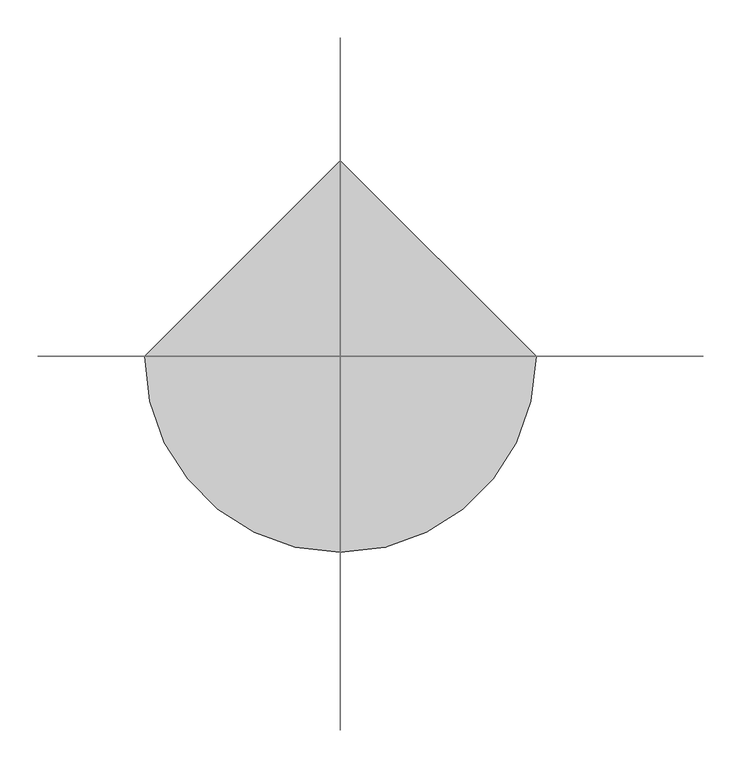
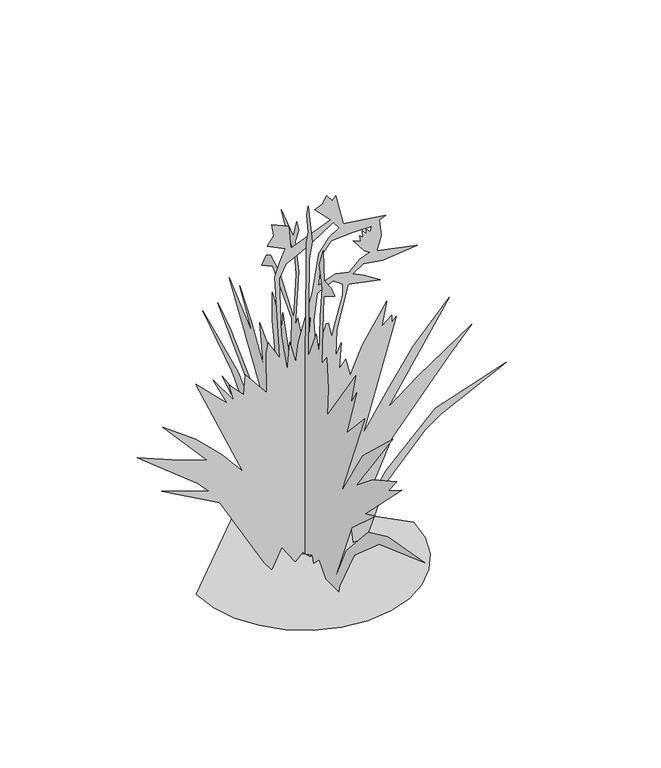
"""IFC4 building model written with IfcOpenShell, lengths in millimetres: geographic element geometry, RPC Vegetação - Tropical : Ave-do-paraíso - 0,9 metros."""

from ifc_helpers import new_model, si_unit, origin, place, context, project, spatial, triangles, source, transform, mapped, element, save


def geographic_element_d6f29d71(model_context):
    return source(origin(), model_context, "Body", "Tessellation", [
        triangles([(-259.9785534, 0.0, 0.0268233), (-253.1010481, -59.6150476, 0.0268233), (-233.511528, -114.3618422, 0.0268233), (-202.7802461, -162.6718839, 0.0268233), (-162.4752208, -202.9769092, 0.0268233), (-114.1651699, -233.7081911, 0.0268233), (-59.4183753, -253.2977112, 0.0268233), (0.1966824, -260.1752166, 0.0268233), (59.8117198, -253.2977112, 0.0268233), (114.5585144, -233.7081911, 0.0268233), (162.8685471, -202.9769092, 0.0268233), (203.1735723, -162.6718839, 0.0268233), (233.9048542, -114.3618422, 0.0268233), (253.4943744, -59.6150476, 0.0268233), (260.3718797, 2.27e-05, 0.0268233), (0.196637, 260.1752166, 0.0268233), (0.1966659, -139.1443593, 0.0), (0.1966684, -88.0078185, 0.0536398), (0.1966402, -58.990549, 32.7495272), (0.1966405, -35.8097782, 9.6918832), (0.1966413, -29.8602731, 25.7230211), (0.1966732, 21.7865176, 0.034815), (0.1966441, 34.5367773, 22.1214173), (0.1966445, 49.6382901, 13.7622607), (0.1966474, 70.672058, 79.5130609), (0.1966762, 90.1703228, 0.0208418), (0.1966478, 107.2985832, 40.1992814), (0.1966473, 111.058837, 15.7445877), (0.196653, 161.8541286, 132.442361), (0.1966563, 198.1324011, 187.8076498), (0.1966626, 309.9377678, 232.2916896), (0.1966647, 342.7502635, 253.8127052), (0.1966625, 296.7677323, 246.5757015), (0.1966595, 242.8469501, 228.3061771), (0.1966641, 304.1927515, 290.3902328), (0.1966718, 423.5253476, 370.722793), (0.1966633, 276.0552248, 304.4802521), (0.1966555, 171.8183823, 201.1024052), (0.1966614, 236.3839362, 302.5627456), (0.1966708, 361.8803095, 428.1128583), (0.1966673, 307.6702463, 392.9753228), (0.1966599, 206.8259112, 295.6077377), (0.1966548, 145.8508721, 217.3604244), (0.1966596, 184.2226397, 318.2102643), (0.1966714, 315.1177568, 519.5154187), (0.1966647, 219.4651833, 438.7428417), (0.1966696, 270.4802198, 525.8929364), (0.1966657, 223.1594346, 465.467882), (0.1966611, 172.7018858, 385.6028077), (0.1966646, 187.5809013, 483.3803787), (0.1966593, 117.4355917, 408.9828123), (0.1966634, 135.2886081, 521.2629138), (0.1966656, 136.56611, 591.7854624), (0.1966618, 93.4560779, 527.7529246), (0.1966628, 91.9280734, 566.2779714), (0.1966581, 58.6350474, 456.1503548), (0.1966615, 55.321546, 574.7429707), (0.1966675, 133.8631046, 658.6055117), (0.1966687, 179.0783861, 634.2979837), (0.196669, 161.3428771, 669.9680449), (0.1966686, 144.7243693, 680.6605608), (0.1966663, 106.4768402, 661.3255491), (0.1966613, 47.2902866, 581.1579861), (0.1966643, 36.290279, 697.9080545), (0.1966659, 43.1720333, 741.84062), (0.1966691, 82.4325683, 791.7756535), (0.1966708, 98.3050824, 823.4781515), (0.1966675, 48.3622869, 787.2931509), (0.1966682, 34.5367773, 831.9806849), (0.1966673, 26.0340214, 814.9756908), (0.1966669, 40.9132821, 778.8406145), (0.1966642, 26.4267708, 709.8755653), (0.1966606, 40.9132821, 566.2779714), (0.1966608, 30.2852744, 589.6604831), (0.1966584, 9.0291074, 542.8979304), (0.1966586, -4.1769284, 568.0779705), (0.1966655, -6.1822801, 802.8856585), (0.1966661, -13.3562353, 834.1057005), (0.1966676, -6.8368056, 873.7782063), (0.196668, -14.3526611, 900.0007336), (0.196665, -29.8230252, 820.1106972), (0.196664, -16.8713891, 768.4456095), (0.1966567, -14.3526611, 519.5154187), (0.1966575, -46.2367853, 596.0379644), (0.1966556, -58.990549, 551.4004274), (0.1966585, -62.7763008, 651.6330448), (0.1966603, -72.4635593, 726.8855736), (0.1966624, -58.990549, 778.8406145), (0.1966627, -67.4930551, 802.2231262), (0.1966631, -75.9955612, 825.6031672), (0.1966606, -80.2468188, 751.2080715), (0.1966593, -109.1830885, 749.823127), (0.1966583, -124.486097, 739.7156044), (0.196659, -98.753329, 723.7105494), (0.1966595, -78.4530602, 710.6880884), (0.1966547, -69.6185567, 536.5204491), (0.1966546, -90.9348201, 563.3229555), (0.196652, -97.2515766, 487.63041), (0.1966502, -93.0003281, 419.610325), (0.19665, -209.9091714, 589.6604831), (0.1966485, -190.778653, 508.8879061), (0.1966486, -214.1604199, 549.272941), (0.1966467, -173.7738952, 423.862827), (0.1966458, -248.1704443, 504.635404), (0.1966429, -150.3921193, 260.1902048), (0.1966432, -240.5591901, 406.5378307), (0.1966412, -363.5102972, 522.7079201), (0.1966417, -212.0349137, 313.3302569), (0.1966403, -280.980233, 370.1877966), (0.1966375, -381.4852901, 425.0578485), (0.1966378, -345.9477791, 381.3503057), (0.1966363, -400.5528399, 415.4653381), (0.1966386, -250.1001956, 265.1027138), (0.1966373, -290.6827294, 283.5727346), (0.196639, -194.4896547, 195.6851668), (0.1966369, -116.3820949, 7.242106), (0.1966379, -170.474133, 123.4753484), (0.1966368, -262.6252124, 226.0591849), (0.1966344, -342.5077638, 263.0927166), (0.1966283, -496.8678912, 289.9502342), (0.1966348, -307.2127524, 222.7774266), (0.1966366, -204.0569123, 131.4561022), (0.1966359, -144.0151194, 17.8701892), (115.6795125, 2.27e-05, 0.0398743), (108.7980103, 2.05e-05, 73.2373084), (77.051238, 2.5e-05, 20.6836417), (54.9359682, 2.45e-05, 45.5032863), (12.5857564, 2.85e-05, 0.012038), (-4.8926582, 2.88e-05, 17.863214), (-23.5282741, 3.04e-05, 0.0036837), (-55.5963748, 2.92e-05, 47.6287879), (-79.7358943, 3.23e-05, 0.0178802), (-97.230902, 3.25e-05, 23.7636431), (-204.3227573, 2.59e-05, 213.2274282), (-342.5535822, 2.73e-05, 289.9502342), (-229.8965233, 2.47e-05, 251.6877078), (-257.2860397, 2.41e-05, 280.7902192), (-402.0711339, 2.36e-05, 396.2303204), (-319.3685875, 2.2e-05, 362.2427874), (-234.1477718, 2.02e-05, 330.3352509), (-340.4286029, 1.76e-05, 451.49537), (-261.8410488, 1.76e-05, 393.915309), (-200.4179993, 1.85e-05, 334.3652739), (-149.1232015, 1.99e-05, 272.945222), (-261.7810415, 9.4e-06, 532.267947), (-186.2094915, 1.04e-05, 458.6753823), (-219.2685202, 7.7e-06, 528.0179157), (-170.8014749, 9.7e-06, 459.8203706), (-181.0072291, 7.6e-06, 502.5103884), (-146.99745, 8.3e-06, 466.3753847), (-142.7461925, 5.2e-06, 515.2654238), (-91.7314012, 6.7e-06, 451.49537), (-92.4199039, 9e-07, 550.6254384), (-87.4803979, -9e-07, 576.9079548), (-59.8471282, 8e-07, 528.0179157), (-63.2118802, -1.8e-06, 574.5229623), (-72.0126375, -1.12e-05, 737.4980799), (-60.5481256, -1.37e-05, 770.9756149), (-46.9568676, -1.6e-05, 800.6756189), (-89.6059041, -1.54e-05, 821.3531359), (-75.1433875, -1.73e-05, 842.9082155), (-78.9778919, -1.89e-05, 872.3681906), (-39.0651073, -1.96e-05, 855.3607258), (-34.3401073, -1.64e-05, 797.9706242), (61.3127228, -2.29e-05, 836.2331869), (23.0517634, -2.35e-05, 874.4932062), (41.945205, -2.48e-05, 882.3832043), (52.8104666, -2.63e-05, 900.0007336), (65.3487229, -2.58e-05, 882.7607248), (73.7792312, -2.68e-05, 892.5007553), (92.3999923, -2.3e-05, 815.1081682), (193.2943244, -2.66e-05, 801.0981222), (178.2215525, -2.56e-05, 795.8456085), (183.0043093, -2.34e-05, 754.7956432), (171.8447978, -2.08e-05, 719.3230991), (269.6243855, -2.38e-05, 698.0680738), (186.5975674, -1.96e-05, 689.9205334), (140.0270361, -1.8e-05, 697.005566), (114.4530157, -1.6e-05, 681.0630798), (140.7995362, -1.64e-05, 668.4080383), (180.347313, -1.66e-05, 642.8005171), (103.8560063, -1.42e-05, 658.5480297), (76.0324821, -6.6e-06, 551.6779541), (74.066482, -2.7e-06, 487.63041), (86.7337411, -4.9e-06, 516.1354288), (82.5687428, -9e-07, 451.49537), (97.4482488, -2.7e-06, 470.6253797), (108.0762611, -5e-07, 425.9878427), (136.9525326, -5.7e-06, 491.9003892), (196.070572, -1.37e-05, 582.6854728), (184.5985615, -9.7e-06, 523.7679208), (207.9803284, -1.18e-05, 542.8979304), (207.9803284, -1.08e-05, 525.8929364), (218.6083315, -1.19e-05, 536.5204491), (139.960534, 7.5e-06, 268.6927199), (194.4868206, 1e-07, 353.2602688), (258.4668725, -8.2e-06, 445.6903464), (346.1444604, -1.77e-05, 540.770444), (199.477577, 2.2e-06, 313.3302569), (269.7743763, -4e-06, 366.8578036), (399.2870015, -1.49e-05, 453.6203493), (350.2569637, -9.5e-06, 399.3953161), (208.3925852, 6.7e-06, 231.6836781), (129.8057759, 2.05e-05, 58.6020462), (194.5665759, 1.18e-05, 155.83987), (312.2694205, -1e-07, 270.6852219), (482.1845578, -1.1e-05, 328.2102716), (325.1544262, 4e-07, 251.2227107), (287.4294033, 3.7e-06, 224.188932), (196.2833134, 1.36e-05, 125.0796018), (146.3372887, 2.1e-05, 0.0499438), (112.7742665, -2.21e-05, 784.8906086), (62.8654714, -1.97e-05, 782.2206408), (41.8502071, -1.72e-05, 755.4756163), (31.5541945, -1.23e-05, 681.0630798), (73.7169802, -1.5e-05, 695.200589), (105.9507549, -1.6e-05, 687.4380541), (130.9127759, -1.85e-05, 711.3255495), (154.84004, -2.01e-05, 721.4481148), (141.8600365, -2.01e-05, 729.6030676), (115.9157626, -2.1e-05, 764.0656443), (134.0235327, -2.13e-05, 756.2055862), (131.7932818, -2.21e-05, 770.9056337), (138.67403, -2.2e-05, 764.8606539), (137.8350369, -2.29e-05, 780.9656301), (146.3372887, -2.27e-05, 770.3381538), (146.6580449, -2.34e-05, 782.6406006), (156.1762957, -2.33e-05, 773.1156006), (159.9027942, -2.42e-05, 785.1081099), (36.1186983, -2e-05, 806.1031219), (-10.1556619, -1.63e-05, 778.3231316), (-45.6728662, -1.38e-05, 761.4506149), (-61.6516284, -1.12e-05, 730.2305729), (-56.5396221, -2.8e-06, 585.4429716), (-42.8423613, 2.2e-06, 491.8829121), (-36.4656089, -2.1e-06, 559.9029608), (-21.5861733, 5e-07, 504.635404), (-15.4455666, -2.5e-06, 551.0479417), (18.0034103, -1.09e-05, 666.3830166), (33.2811967, -1.71e-05, 760.0431427), (56.9582194, -2.01e-05, 792.7081547), (82.5687428, -2.22e-05, 808.5981731), (67.6897273, -2.27e-05, 827.7306536), (29.9296934, -1.11e-05, 661.0805059), (21.6548124, -6.8e-06, 595.5179744), (25.4739402, -2.5e-06, 519.7704177), (30.5661939, -2.7e-06, 520.4079151), (50.9349633, -7e-06, 577.057982), (55.3907188, -7.1e-06, 576.4229553), (64.3019753, -5.3e-06, 539.5029342), (68.7577263, -6.7e-06, 559.2354506), (90.3994967, -1.22e-05, 635.618034), (90.3994967, -1.38e-05, 662.35303), (67.4844755, -1.38e-05, 679.5380276), (7.0147767, -5.6e-06, 585.970483), (10.8339045, -4.5e-06, 564.327945), (13.3800063, -6e-06, 588.5154585), (15.2895827, -7.8e-06, 617.1605124)], [[15, 16, 1], [14, 15, 1], [14, 1, 2], [13, 14, 2], [13, 2, 3], [13, 3, 4], [12, 13, 4], [11, 12, 4], [11, 4, 5], [11, 5, 6], [11, 6, 7], [11, 7, 8], [11, 8, 9], [11, 9, 10], [46, 47, 48], [119, 120, 121], [35, 36, 37], [106, 107, 108], [39, 40, 41], [39, 41, 42], [101, 102, 103], [111, 112, 113], [105, 106, 108], [44, 45, 46], [113, 114, 115], [54, 55, 56], [103, 104, 105], [99, 100, 101], [109, 110, 111], [89, 90, 91], [118, 119, 121], [31, 32, 33], [46, 48, 49], [44, 46, 49], [79, 80, 81], [78, 79, 81], [66, 67, 68], [27, 28, 29], [52, 53, 54], [88, 89, 91], [87, 88, 91], [49, 50, 51], [58, 59, 60], [99, 101, 103], [25, 26, 27], [83, 84, 85], [109, 111, 113], [108, 109, 113], [96, 97, 98], [68, 69, 70], [68, 70, 71], [38, 39, 42], [38, 42, 43], [65, 66, 68], [65, 68, 71], [65, 71, 72], [64, 65, 72], [64, 72, 73], [63, 64, 73], [118, 121, 122], [117, 118, 122], [117, 122, 123], [116, 117, 123], [73, 74, 75], [116, 123, 17], [116, 17, 18], [58, 60, 61], [58, 61, 62], [57, 58, 62], [57, 62, 63], [77, 78, 81], [77, 81, 82], [76, 77, 82], [76, 82, 83], [75, 76, 83], [92, 93, 94], [19, 20, 21], [30, 31, 33], [30, 33, 34], [91, 92, 94], [87, 91, 94], [87, 94, 95], [86, 87, 95], [86, 95, 96], [85, 86, 96], [34, 35, 37], [34, 37, 38], [30, 34, 38], [25, 27, 29], [57, 63, 73], [56, 57, 73], [56, 73, 75], [56, 75, 83], [23, 24, 25], [99, 103, 105], [29, 30, 38], [105, 108, 113], [105, 113, 115], [51, 52, 54], [51, 54, 56], [83, 85, 96], [21, 22, 23], [83, 96, 98], [83, 98, 99], [56, 83, 99], [29, 38, 43], [25, 29, 43], [115, 116, 18], [115, 18, 19], [105, 115, 19], [21, 23, 25], [44, 49, 51], [43, 44, 51], [56, 99, 105], [51, 56, 105], [43, 51, 105], [43, 105, 19], [25, 43, 19], [21, 25, 19], [248, 124, 125], [241, 229, 212], [206, 207, 208], [197, 198, 199], [146, 147, 148], [134, 135, 136], [196, 197, 199], [241, 212, 213], [255, 237, 238], [140, 141, 142], [200, 201, 202], [137, 138, 139], [255, 238, 239], [258, 255, 239], [175, 176, 177], [184, 185, 186], [235, 236, 237], [180, 181, 182], [189, 190, 191], [144, 145, 146], [140, 142, 143], [247, 248, 125], [171, 172, 173], [200, 202, 203], [199, 200, 203], [193, 194, 195], [237, 255, 256], [220, 221, 222], [148, 149, 150], [137, 139, 140], [224, 225, 226], [229, 241, 242], [195, 196, 199], [222, 223, 224], [153, 154, 155], [179, 180, 182], [150, 151, 152], [226, 227, 228], [191, 192, 193], [186, 187, 188], [169, 170, 171], [175, 177, 178], [152, 153, 155], [195, 199, 203], [161, 162, 163], [240, 241, 213], [240, 213, 214], [165, 166, 167], [167, 168, 169], [165, 167, 169], [165, 169, 171], [191, 193, 195], [189, 191, 195], [188, 189, 195], [239, 240, 214], [239, 214, 215], [125, 126, 127], [124, 248, 249], [124, 249, 250], [161, 163, 164], [160, 161, 164], [159, 160, 164], [131, 132, 133], [144, 146, 148], [129, 130, 131], [131, 133, 134], [206, 208, 209], [205, 206, 209], [205, 209, 210], [204, 205, 210], [204, 210, 211], [204, 211, 124], [204, 124, 250], [246, 247, 125], [195, 203, 204], [144, 148, 150], [144, 150, 152], [158, 159, 164], [127, 128, 129], [246, 125, 127], [246, 127, 129], [246, 129, 131], [136, 137, 140], [136, 140, 143], [136, 143, 144], [134, 136, 144], [131, 134, 144], [220, 222, 224], [220, 224, 226], [220, 226, 228], [219, 220, 228], [131, 144, 152], [258, 239, 215], [174, 175, 178], [186, 188, 195], [215, 216, 217], [131, 152, 155], [157, 158, 164], [217, 218, 219], [186, 195, 204], [219, 228, 229], [245, 246, 131], [245, 131, 215], [244, 245, 215], [254, 244, 215], [254, 215, 217], [253, 254, 217], [252, 253, 217], [257, 258, 215], [184, 186, 204], [184, 204, 250], [183, 184, 250], [183, 250, 251], [182, 183, 251], [182, 251, 252], [182, 252, 217], [179, 182, 217], [179, 217, 219], [178, 179, 219], [174, 178, 219], [174, 219, 229], [173, 174, 229], [171, 173, 229], [171, 229, 242], [165, 171, 242], [165, 242, 243], [165, 243, 230], [164, 165, 230], [164, 230, 231], [164, 231, 232], [157, 164, 232], [157, 232, 233], [156, 157, 233], [156, 233, 234], [156, 234, 235], [155, 156, 235], [131, 155, 235], [131, 235, 237], [131, 237, 256], [215, 131, 256], [257, 215, 256]], closed=False),
    ])


if __name__ == "__main__":
    model = new_model("IFC4")
    model_context = context("Model", 3, world=origin())
    ifc_project = project(units=[si_unit("LENGTHUNIT", "METRE", prefix="MILLI")], contexts=[model_context])
    site = spatial("IfcSite", under=ifc_project)
    building = spatial("IfcBuilding", under=site)
    placement = place(None, origin())
    geographic_element_shape = geographic_element_d6f29d71(model_context)
    element("IfcGeographicElement", 1, ObjectType="RPC Vegetação - Tropical : Ave-do-paraíso - 0,9 metros", at=placement, inside=building, context=model_context, shape_type="MappedRepresentation", body=[
        mapped(geographic_element_shape, transform((0.0, 0.0, 0.0), x_axis=(1.0, 0.0, 0.0), y_axis=(0.0, 1.0, 0.0), z_axis=(0.0, 0.0, 1.0))),
    ])
    save(model, "model.ifc")
